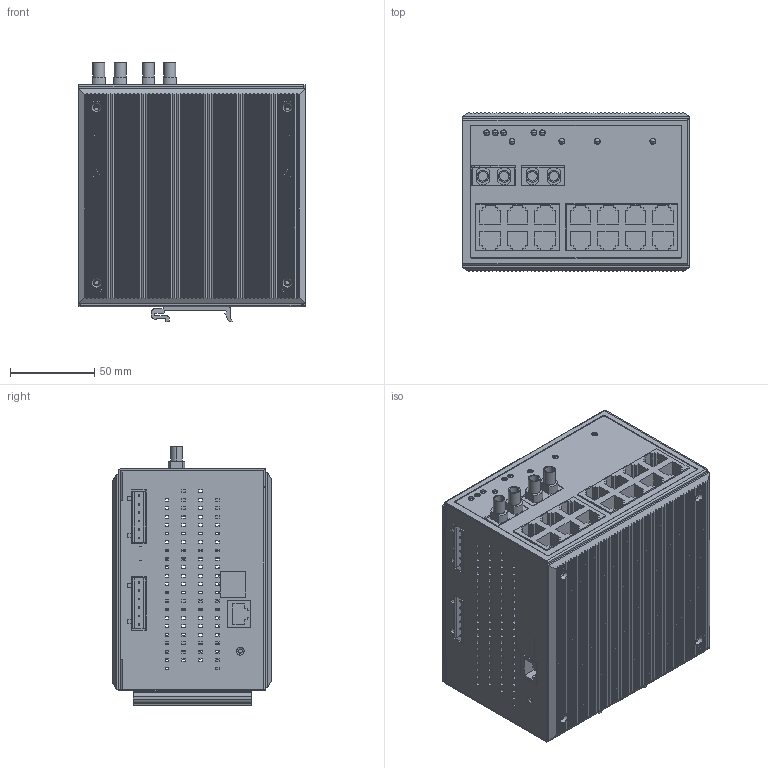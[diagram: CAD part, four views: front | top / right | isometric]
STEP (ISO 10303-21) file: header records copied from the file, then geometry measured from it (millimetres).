
FILE_DESCRIPTION((''),'2;1');
FILE_NAME('EDS-516A-MM-ST','2010-08-20T',('Chialu_Chang'),(''),'PRO/ENGINEER BY PARAMETRIC TECHNOLOGY CORPORATION, 2004440','PRO/ENGINEER BY PARAMETRIC TECHNOLOGY CORPORATION, 2004440','');
FILE_SCHEMA(('CONFIG_CONTROL_DESIGN'));
Products named in the file (1): EDS-516A-MM-ST
Bounding box: 135 x 94.03 x 153.79 mm (x, y, z)
Surface area: 525859.6 mm2 (no closed solid volume)
Topology: 0 solids, 100 shells, 7180 faces, 18185 edges, 11695 vertices
Faces by surface type: plane 5847, cylinder 912, cone 336, torus 62, bspline 23
Entity records: 214797 total; most frequent: CARTESIAN_POINT 41220, ORIENTED_EDGE 36178, DIRECTION 33534, EDGE_CURVE 18147, VECTOR 15108, LINE 15108, VERTEX_POINT 11695, AXIS2_PLACEMENT_3D 9213
